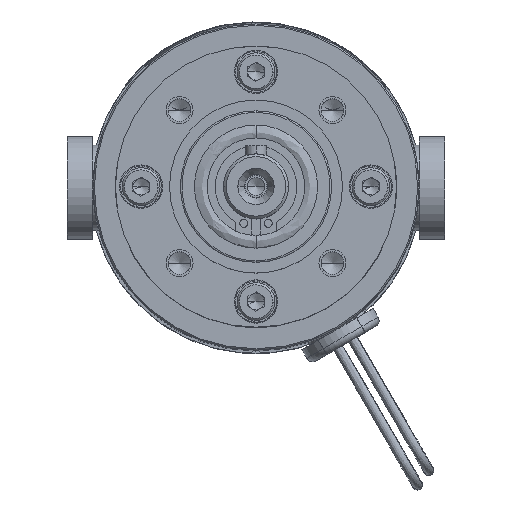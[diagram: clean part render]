
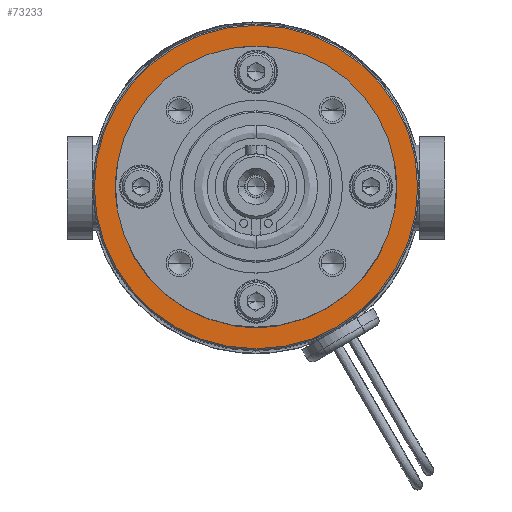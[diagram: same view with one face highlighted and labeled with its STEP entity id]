
A CAD part, top view. The second image highlights one B-rep face of the part: STEP entity #73233.
In plain terms, the highlighted planar face has unit normal (0, 0, 1).
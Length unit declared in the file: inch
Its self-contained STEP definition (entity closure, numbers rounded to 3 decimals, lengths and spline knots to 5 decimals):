
#4087 = CARTESIAN_POINT ( 'NONE',  ( -0.9595, 0., -0.68406 ) ) ;
#5573 = CIRCLE ( 'NONE', #52491, 0.9595 ) ;
#6285 = AXIS2_PLACEMENT_3D ( 'NONE', #9161, #68162, #17655 ) ;
#9161 = CARTESIAN_POINT ( 'NONE',  ( 0., 0., -0.68406 ) ) ;
#17655 = DIRECTION ( 'NONE',  ( 1., 0., 0. ) ) ;
#18544 = CARTESIAN_POINT ( 'NONE',  ( 0.9595, 0., -0.68406 ) ) ;
#20549 = DIRECTION ( 'NONE',  ( 0., 0., 1. ) ) ;
#29579 = DIRECTION ( 'NONE',  ( 0., 0., 1. ) ) ;
#38732 = ORIENTED_EDGE ( 'NONE', *, *, #97483, .T. ) ;
#39500 = EDGE_LOOP ( 'NONE', ( #55343, #108742 ) ) ;
#39649 = EDGE_LOOP ( 'NONE', ( #38732, #71775 ) ) ;
#48108 = CARTESIAN_POINT ( 'NONE',  ( 0., 1.1875, -0.68406 ) ) ;
#48389 = VERTEX_POINT ( 'NONE', #85911 ) ;
#49260 = AXIS2_PLACEMENT_3D ( 'NONE', #49428, #108284, #57866 ) ;
#49428 = CARTESIAN_POINT ( 'NONE',  ( 0., 0., -0.68406 ) ) ;
#52491 = AXIS2_PLACEMENT_3D ( 'NONE', #71042, #20549, #79517 ) ;
#53245 = EDGE_CURVE ( 'NONE', #91956, #99252, #104839, .T. ) ;
#55343 = ORIENTED_EDGE ( 'NONE', *, *, #63237, .F. ) ;
#56326 = FACE_OUTER_BOUND ( 'NONE', #39649, .T. ) ;
#56529 = DIRECTION ( 'NONE',  ( 1., 0., 0. ) ) ;
#57866 = DIRECTION ( 'NONE',  ( 1., 0., 0. ) ) ;
#63237 = EDGE_CURVE ( 'NONE', #99252, #91956, #5573, .T. ) ;
#64027 = VERTEX_POINT ( 'NONE', #68230 ) ;
#64538 = CARTESIAN_POINT ( 'NONE',  ( 0., 0., -0.68406 ) ) ;
#64616 = PLANE ( 'NONE',  #89793 ) ;
#65432 = CIRCLE ( 'NONE', #84462, 1.1775 ) ;
#68162 = DIRECTION ( 'NONE',  ( 0., 0., 1. ) ) ;
#68230 = CARTESIAN_POINT ( 'NONE',  ( -1.1775, 0., -0.68406 ) ) ;
#69944 = CIRCLE ( 'NONE', #6285, 1.1775 ) ;
#71042 = CARTESIAN_POINT ( 'NONE',  ( 0., 0., -0.68406 ) ) ;
#71775 = ORIENTED_EDGE ( 'NONE', *, *, #78954, .T. ) ;
#73141 = DIRECTION ( 'NONE',  ( 1., 0., 0. ) ) ;
#73233 = ADVANCED_FACE ( 'NONE', ( #56326, #101065 ), #64616, .T. ) ;
#78954 = EDGE_CURVE ( 'NONE', #48389, #64027, #69944, .T. ) ;
#79517 = DIRECTION ( 'NONE',  ( 1., 0., 0. ) ) ;
#84462 = AXIS2_PLACEMENT_3D ( 'NONE', #64538, #29579, #73141 ) ;
#85911 = CARTESIAN_POINT ( 'NONE',  ( 1.1775, 0., -0.68406 ) ) ;
#89793 = AXIS2_PLACEMENT_3D ( 'NONE', #48108, #106913, #56529 ) ;
#91956 = VERTEX_POINT ( 'NONE', #4087 ) ;
#97483 = EDGE_CURVE ( 'NONE', #64027, #48389, #65432, .T. ) ;
#99252 = VERTEX_POINT ( 'NONE', #18544 ) ;
#101065 = FACE_BOUND ( 'NONE', #39500, .T. ) ;
#104839 = CIRCLE ( 'NONE', #49260, 0.9595 ) ;
#106913 = DIRECTION ( 'NONE',  ( 0., 0., 1. ) ) ;
#108284 = DIRECTION ( 'NONE',  ( 0., 0., 1. ) ) ;
#108742 = ORIENTED_EDGE ( 'NONE', *, *, #53245, .F. ) ;
